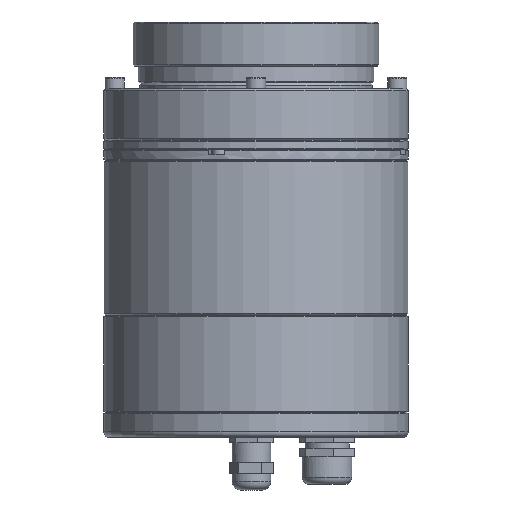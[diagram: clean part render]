
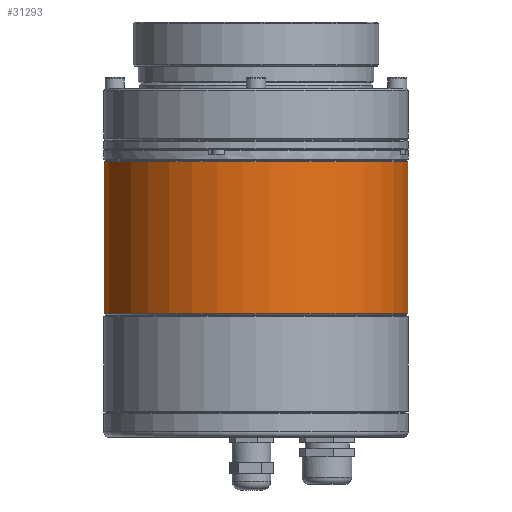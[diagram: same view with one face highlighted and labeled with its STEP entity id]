
A CAD part, front view. The second image highlights one B-rep face of the part: STEP entity #31293.
In plain terms, the highlighted cylindrical face has radius 55 mm (diameter 110 mm), a full revolution.
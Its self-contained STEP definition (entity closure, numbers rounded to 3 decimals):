
#31261=CARTESIAN_POINT('',(0.,0.,-6.255));
#31262=DIRECTION('',(-0.707,-0.707,0.));
#31263=DIRECTION('',(0.,0.,1.));
#31264=AXIS2_PLACEMENT_3D('',#31261,#31263,#31262);
#31265=CYLINDRICAL_SURFACE('',#31264,55.);
#31266=CARTESIAN_POINT('',(-38.891,-38.891,-5.755));
#31267=VERTEX_POINT('',#31266);
#31268=CARTESIAN_POINT('',(-38.891,-38.891,49.145));
#31269=VERTEX_POINT('',#31268);
#31270=CARTESIAN_POINT('',(-38.891,-38.891,-5.755));
#31271=DIRECTION('',(0.,0.,1.));
#31272=VECTOR('',#31271,54.9);
#31273=LINE('',#31270,#31272);
#31274=EDGE_CURVE('',#31267,#31269,#31273,.T.);
#31275=ORIENTED_EDGE('E6',*,*,#31274,.T.);
#31276=CARTESIAN_POINT('',(0.,0.,49.145));
#31277=DIRECTION('',(-0.707,-0.707,0.));
#31278=DIRECTION('',(0.,0.,-1.));
#31279=AXIS2_PLACEMENT_3D('',#31276,#31278,#31277);
#31280=CIRCLE('',#31279,55.);
#31281=EDGE_CURVE('',#31269,#31269,#31280,.T.);
#31282=ORIENTED_EDGE('E181',*,*,#31281,.T.);
#31283=ORIENTED_EDGE('E181',*,*,#31274,.F.);
#31284=CARTESIAN_POINT('',(0.,0.,-5.755));
#31285=DIRECTION('',(-0.707,-0.707,0.));
#31286=DIRECTION('',(0.,0.,-1.));
#31287=AXIS2_PLACEMENT_3D('',#31284,#31286,#31285);
#31288=CIRCLE('',#31287,55.);
#31289=EDGE_CURVE('',#31267,#31267,#31288,.T.);
#31290=ORIENTED_EDGE('E179',*,*,#31289,.F.);
#31291=EDGE_LOOP('',(#31275,#31282,#31283,#31290));
#31292=FACE_OUTER_BOUND('',#31291,.T.);
#31293=ADVANCED_FACE('F10',(#31292),#31265,.T.);
